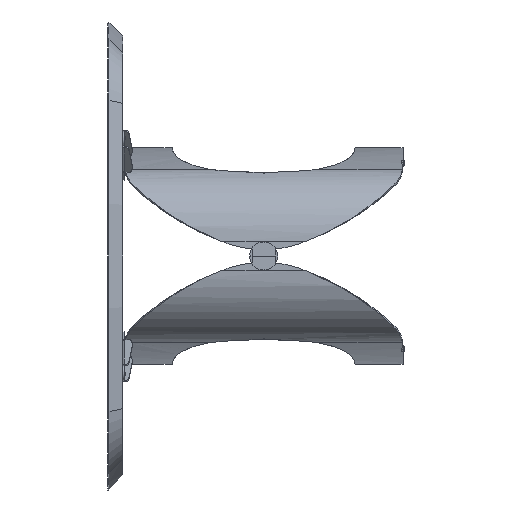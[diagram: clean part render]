
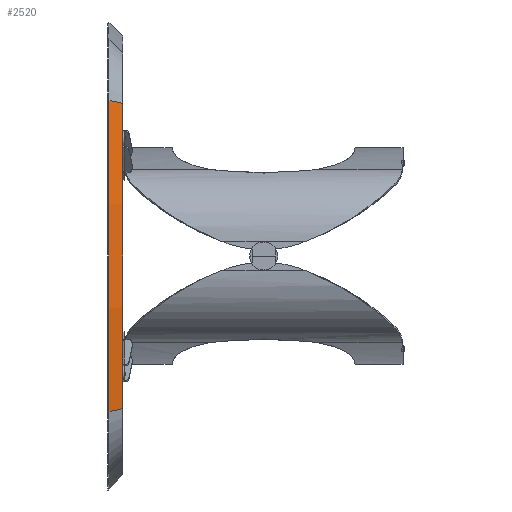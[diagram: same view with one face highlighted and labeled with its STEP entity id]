
A CAD part, left-side view. The second image highlights one B-rep face of the part: STEP entity #2520.
In plain terms, the highlighted conical face has half-angle 45 degrees and reference radius 1895 mm.
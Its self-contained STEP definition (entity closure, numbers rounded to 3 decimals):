
#245 = AXIS2_PLACEMENT_3D ( 'NONE', #10847, #10978, #23488 ) ;
#483 = DIRECTION ( 'NONE',  ( 0., 0., 1. ) ) ;
#994 = CARTESIAN_POINT ( 'NONE',  ( -923.598, 0.293, -391.65 ) ) ;
#1824 = DIRECTION ( 'NONE',  ( -0.691, 0.707, 0.149 ) ) ;
#2520 = ADVANCED_FACE ( 'NONE', ( #21163 ), #13381, .T. ) ;
#2839 = VERTEX_POINT ( 'NONE', #20511 ) ;
#4084 = DIRECTION ( 'NONE',  ( 0., 1., 0. ) ) ;
#5300 = ORIENTED_EDGE ( 'NONE', *, *, #13716, .F. ) ;
#5929 = CARTESIAN_POINT ( 'NONE',  ( -923.312, 0., 391.588 ) ) ;
#6088 = ORIENTED_EDGE ( 'NONE', *, *, #9440, .T. ) ;
#6718 = EDGE_CURVE ( 'NONE', #2839, #23018, #25242, .T. ) ;
#8415 = ORIENTED_EDGE ( 'NONE', *, *, #10538, .T. ) ;
#9440 = EDGE_CURVE ( 'NONE', #17598, #23018, #20664, .T. ) ;
#9598 = DIRECTION ( 'NONE',  ( -0.691, 0.707, -0.149 ) ) ;
#9648 = AXIS2_PLACEMENT_3D ( 'NONE', #19064, #14926, #483 ) ;
#10142 = VECTOR ( 'NONE', #9598, 1000. ) ;
#10538 = EDGE_CURVE ( 'NONE', #16285, #17598, #25867, .T. ) ;
#10550 = CARTESIAN_POINT ( 'NONE',  ( 895., 35., 0. ) ) ;
#10847 = CARTESIAN_POINT ( 'NONE',  ( 895., 35., 0. ) ) ;
#10978 = DIRECTION ( 'NONE',  ( 0., 1., 0. ) ) ;
#11374 = CARTESIAN_POINT ( 'NONE',  ( -923.598, 0.293, 391.65 ) ) ;
#12596 = ORIENTED_EDGE ( 'NONE', *, *, #6718, .F. ) ;
#13381 = CONICAL_SURFACE ( 'NONE', #16446, 1895., 0.785 ) ;
#13716 = EDGE_CURVE ( 'NONE', #16285, #2839, #26081, .T. ) ;
#14926 = DIRECTION ( 'NONE',  ( 0., 1., 0. ) ) ;
#16285 = VERTEX_POINT ( 'NONE', #994 ) ;
#16446 = AXIS2_PLACEMENT_3D ( 'NONE', #10550, #4084, #21435 ) ;
#16658 = VECTOR ( 'NONE', #1824, 1000. ) ;
#17598 = VERTEX_POINT ( 'NONE', #11374 ) ;
#19064 = CARTESIAN_POINT ( 'NONE',  ( 895., 0.293, 0. ) ) ;
#19327 = EDGE_LOOP ( 'NONE', ( #5300, #8415, #6088, #12596 ) ) ;
#20280 = CARTESIAN_POINT ( 'NONE',  ( -957.528, 35., 398.956 ) ) ;
#20511 = CARTESIAN_POINT ( 'NONE',  ( -957.528, 35., -398.956 ) ) ;
#20664 = LINE ( 'NONE', #5929, #16658 ) ;
#21163 = FACE_OUTER_BOUND ( 'NONE', #19327, .T. ) ;
#21435 = DIRECTION ( 'NONE',  ( 0., 0., 1. ) ) ;
#21865 = CARTESIAN_POINT ( 'NONE',  ( -923.312, 0., -391.588 ) ) ;
#23018 = VERTEX_POINT ( 'NONE', #20280 ) ;
#23488 = DIRECTION ( 'NONE',  ( 0., 0., 1. ) ) ;
#25242 = CIRCLE ( 'NONE', #245, 1895. ) ;
#25867 = CIRCLE ( 'NONE', #9648, 1860.293 ) ;
#26081 = LINE ( 'NONE', #21865, #10142 ) ;
